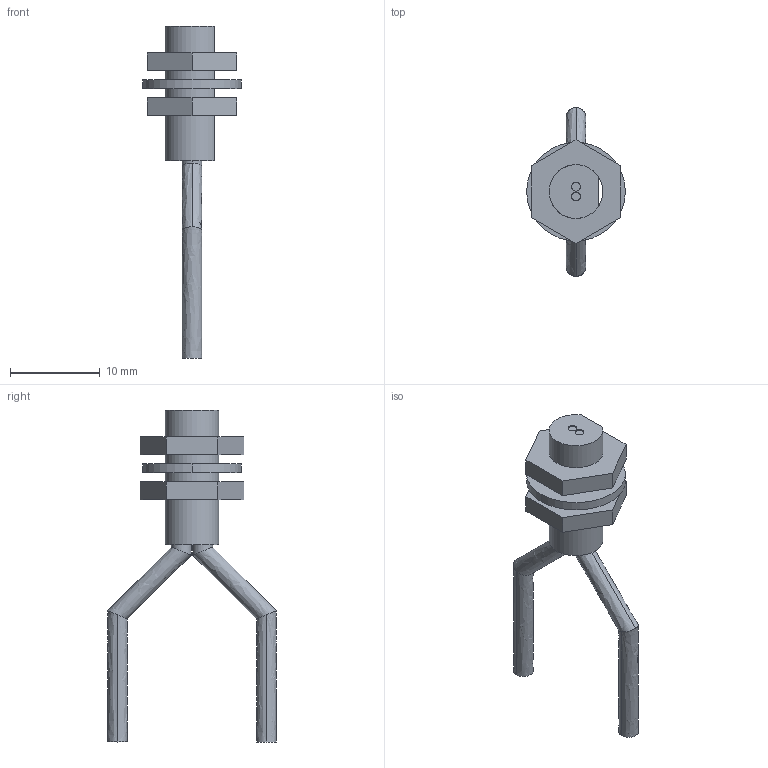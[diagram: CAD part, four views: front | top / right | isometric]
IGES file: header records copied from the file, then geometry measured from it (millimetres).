
Start section: SolidWorks IGES FILE using analytic representation for surfaces
Global section: file name: \\Intra-srv04\開発データ\CAD_Data\CAD委員会\3D電子ｶﾀﾛｸﾞ\製品カタログ（新）\0_IGES\FD-W8.IGS,41HSolidWorks 2004; native system: by SolidWorks Corporation; preprocessor: Version 5.3; author: YK0651; date: 050908.235718; units: millimetre
Bounding box: 11 x 18.8 x 37 mm (x, y, z)
Volume: 896.8 mm3; surface area: 1313.7 mm2
Topology: 4 solids, 4 shells, 50 faces, 110 edges, 72 vertices
Faces by surface type: revolution 25, plane 25
